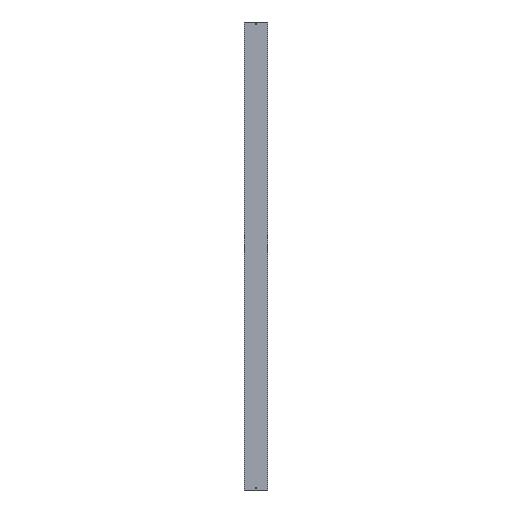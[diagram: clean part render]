
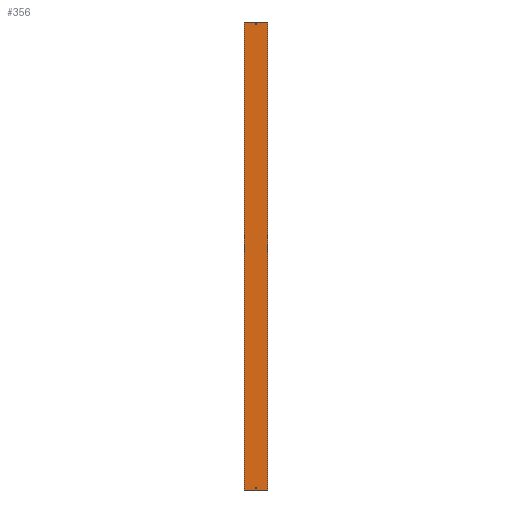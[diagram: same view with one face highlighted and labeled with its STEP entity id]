
A CAD part, front view. The second image highlights one B-rep face of the part: STEP entity #356.
In plain terms, the highlighted planar face has unit normal (0, -1, 0).
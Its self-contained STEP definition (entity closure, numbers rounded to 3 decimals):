
#3 = VERTEX_POINT ( 'NONE', #473 ) ;
#9 = CARTESIAN_POINT ( 'NONE',  ( -3., -1., 1500. ) ) ;
#10 = LINE ( 'NONE', #136, #329 ) ;
#13 = EDGE_CURVE ( 'NONE', #53, #267, #10, .T. ) ;
#35 = VERTEX_POINT ( 'NONE', #143 ) ;
#36 = LINE ( 'NONE', #214, #504 ) ;
#47 = FACE_OUTER_BOUND ( 'NONE', #551, .T. ) ;
#49 = DIRECTION ( 'NONE',  ( 0., 0., -1. ) ) ;
#53 = VERTEX_POINT ( 'NONE', #384 ) ;
#58 = CARTESIAN_POINT ( 'NONE',  ( 3., -1., 1481.5 ) ) ;
#73 = CARTESIAN_POINT ( 'NONE',  ( -75., -1., -1500. ) ) ;
#75 = CARTESIAN_POINT ( 'NONE',  ( -3., -1., 1500. ) ) ;
#77 = LINE ( 'NONE', #357, #191 ) ;
#81 = DIRECTION ( 'NONE',  ( 0., 0., -1. ) ) ;
#86 = CARTESIAN_POINT ( 'NONE',  ( -3., -1., -1481.5 ) ) ;
#88 = VERTEX_POINT ( 'NONE', #341 ) ;
#90 = EDGE_LOOP ( 'NONE', ( #324, #564, #313, #368 ) ) ;
#113 = CARTESIAN_POINT ( 'NONE',  ( 75., -1., 1500. ) ) ;
#116 = DIRECTION ( 'NONE',  ( 1., 0., 0. ) ) ;
#119 = CARTESIAN_POINT ( 'NONE',  ( 3., -1., -1481.5 ) ) ;
#122 = FACE_BOUND ( 'NONE', #282, .T. ) ;
#123 = ORIENTED_EDGE ( 'NONE', *, *, #135, .F. ) ;
#125 = EDGE_CURVE ( 'NONE', #438, #131, #152, .T. ) ;
#128 = VECTOR ( 'NONE', #274, 1000. ) ;
#129 = ORIENTED_EDGE ( 'NONE', *, *, #163, .T. ) ;
#131 = VERTEX_POINT ( 'NONE', #73 ) ;
#135 = EDGE_CURVE ( 'NONE', #3, #131, #257, .T. ) ;
#136 = CARTESIAN_POINT ( 'NONE',  ( -76., -1., 1481.5 ) ) ;
#142 = EDGE_CURVE ( 'NONE', #395, #449, #434, .T. ) ;
#143 = CARTESIAN_POINT ( 'NONE',  ( -3., -1., -1488.5 ) ) ;
#151 = LINE ( 'NONE', #558, #561 ) ;
#152 = LINE ( 'NONE', #299, #235 ) ;
#154 = CARTESIAN_POINT ( 'NONE',  ( -3., -1., 1488.5 ) ) ;
#161 = VERTEX_POINT ( 'NONE', #164 ) ;
#163 = EDGE_CURVE ( 'NONE', #35, #395, #305, .T. ) ;
#164 = CARTESIAN_POINT ( 'NONE',  ( 3., -1., 1488.5 ) ) ;
#165 = ORIENTED_EDGE ( 'NONE', *, *, #467, .T. ) ;
#175 = DIRECTION ( 'NONE',  ( 0., -1., 0. ) ) ;
#186 = LINE ( 'NONE', #9, #218 ) ;
#191 = VECTOR ( 'NONE', #584, 1000. ) ;
#200 = EDGE_CURVE ( 'NONE', #306, #438, #151, .T. ) ;
#206 = EDGE_CURVE ( 'NONE', #267, #161, #345, .T. ) ;
#208 = LINE ( 'NONE', #573, #375 ) ;
#211 = VERTEX_POINT ( 'NONE', #154 ) ;
#213 = ORIENTED_EDGE ( 'NONE', *, *, #200, .T. ) ;
#214 = CARTESIAN_POINT ( 'NONE',  ( 75., -1., 1500. ) ) ;
#218 = VECTOR ( 'NONE', #49, 1000. ) ;
#224 = FACE_BOUND ( 'NONE', #90, .T. ) ;
#235 = VECTOR ( 'NONE', #291, 1000. ) ;
#257 = LINE ( 'NONE', #481, #338 ) ;
#259 = DIRECTION ( 'NONE',  ( 0., 0., 1. ) ) ;
#264 = DIRECTION ( 'NONE',  ( 0., 0., -1. ) ) ;
#267 = VERTEX_POINT ( 'NONE', #58 ) ;
#274 = DIRECTION ( 'NONE',  ( -1., 0., 0. ) ) ;
#282 = EDGE_LOOP ( 'NONE', ( #165, #129, #559, #362 ) ) ;
#285 = CARTESIAN_POINT ( 'NONE',  ( -76., -1., -1488.5 ) ) ;
#287 = DIRECTION ( 'NONE',  ( -1., 0., 0. ) ) ;
#291 = DIRECTION ( 'NONE',  ( 0., 0., -1. ) ) ;
#296 = VECTOR ( 'NONE', #116, 1000. ) ;
#299 = CARTESIAN_POINT ( 'NONE',  ( -75., -1., 1500. ) ) ;
#305 = LINE ( 'NONE', #75, #488 ) ;
#306 = VERTEX_POINT ( 'NONE', #113 ) ;
#313 = ORIENTED_EDGE ( 'NONE', *, *, #206, .F. ) ;
#319 = EDGE_CURVE ( 'NONE', #161, #211, #208, .T. ) ;
#324 = ORIENTED_EDGE ( 'NONE', *, *, #463, .F. ) ;
#329 = VECTOR ( 'NONE', #417, 1000. ) ;
#337 = EDGE_CURVE ( 'NONE', #449, #88, #77, .T. ) ;
#338 = VECTOR ( 'NONE', #531, 1000. ) ;
#341 = CARTESIAN_POINT ( 'NONE',  ( 3., -1., -1488.5 ) ) ;
#345 = LINE ( 'NONE', #393, #536 ) ;
#356 = ADVANCED_FACE ( 'NONE', ( #224, #47, #122 ), #580, .T. ) ;
#357 = CARTESIAN_POINT ( 'NONE',  ( 3., -1., 1500. ) ) ;
#362 = ORIENTED_EDGE ( 'NONE', *, *, #337, .T. ) ;
#368 = ORIENTED_EDGE ( 'NONE', *, *, #13, .F. ) ;
#375 = VECTOR ( 'NONE', #287, 1000. ) ;
#384 = CARTESIAN_POINT ( 'NONE',  ( -3., -1., 1481.5 ) ) ;
#387 = DIRECTION ( 'NONE',  ( 0., 0., 1. ) ) ;
#393 = CARTESIAN_POINT ( 'NONE',  ( 3., -1., 1500. ) ) ;
#395 = VERTEX_POINT ( 'NONE', #86 ) ;
#396 = EDGE_CURVE ( 'NONE', #306, #3, #36, .T. ) ;
#411 = LINE ( 'NONE', #285, #128 ) ;
#417 = DIRECTION ( 'NONE',  ( 1., 0., 0. ) ) ;
#418 = AXIS2_PLACEMENT_3D ( 'NONE', #487, #175, #264 ) ;
#434 = LINE ( 'NONE', #437, #296 ) ;
#437 = CARTESIAN_POINT ( 'NONE',  ( -76., -1., -1481.5 ) ) ;
#438 = VERTEX_POINT ( 'NONE', #540 ) ;
#449 = VERTEX_POINT ( 'NONE', #119 ) ;
#463 = EDGE_CURVE ( 'NONE', #211, #53, #186, .T. ) ;
#467 = EDGE_CURVE ( 'NONE', #88, #35, #411, .T. ) ;
#473 = CARTESIAN_POINT ( 'NONE',  ( 75., -1., -1500. ) ) ;
#481 = CARTESIAN_POINT ( 'NONE',  ( -76., -1., -1500. ) ) ;
#487 = CARTESIAN_POINT ( 'NONE',  ( -76., -1., 1500. ) ) ;
#488 = VECTOR ( 'NONE', #259, 1000. ) ;
#501 = ORIENTED_EDGE ( 'NONE', *, *, #396, .F. ) ;
#504 = VECTOR ( 'NONE', #81, 1000. ) ;
#531 = DIRECTION ( 'NONE',  ( -1., 0., 0. ) ) ;
#536 = VECTOR ( 'NONE', #387, 1000. ) ;
#537 = ORIENTED_EDGE ( 'NONE', *, *, #125, .T. ) ;
#540 = CARTESIAN_POINT ( 'NONE',  ( -75., -1., 1500. ) ) ;
#551 = EDGE_LOOP ( 'NONE', ( #123, #501, #213, #537 ) ) ;
#558 = CARTESIAN_POINT ( 'NONE',  ( -76., -1., 1500. ) ) ;
#559 = ORIENTED_EDGE ( 'NONE', *, *, #142, .T. ) ;
#561 = VECTOR ( 'NONE', #565, 1000. ) ;
#564 = ORIENTED_EDGE ( 'NONE', *, *, #319, .F. ) ;
#565 = DIRECTION ( 'NONE',  ( -1., 0., 0. ) ) ;
#573 = CARTESIAN_POINT ( 'NONE',  ( -76., -1., 1488.5 ) ) ;
#580 = PLANE ( 'NONE',  #418 ) ;
#584 = DIRECTION ( 'NONE',  ( 0., 0., -1. ) ) ;
